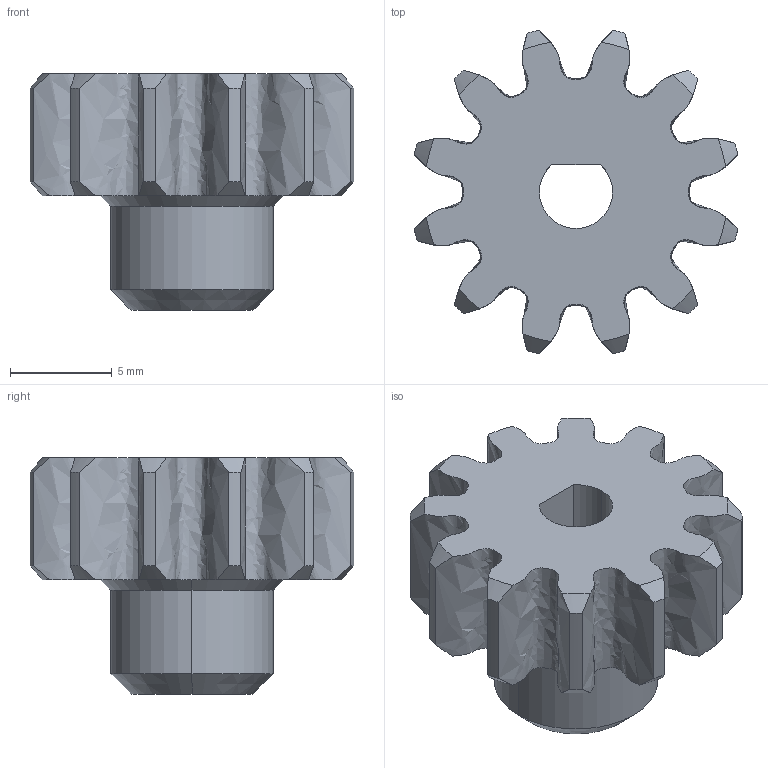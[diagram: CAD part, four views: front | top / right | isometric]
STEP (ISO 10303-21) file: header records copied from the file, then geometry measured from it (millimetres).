
FILE_DESCRIPTION (( 'STEP AP214' ), '1' );
FILE_NAME ('Ïèíü¸í 12.STEP', '2019-03-26T15:16:48', ( '' ), ( '' ), 'SwSTEP 2.0', 'SolidWorks 2018', '' );
FILE_SCHEMA (( 'AUTOMOTIVE_DESIGN' ));
Length unit declared in the file: millimetre
Products named in the file (1): 矧薤貲 12
Bounding box: 15.92 x 15.92 x 11.62 mm (x, y, z)
Volume: 1057.5 mm3; surface area: 1014.1 mm2
Topology: 1 solids, 1 shells, 65 faces, 178 edges, 116 vertices
Faces by surface type: cone 31, cylinder 17, bspline 12, plane 5
Entity records: 7657 total; most frequent: CARTESIAN_POINT 6090, ORIENTED_EDGE 356, DIRECTION 277, EDGE_CURVE 178, AXIS2_PLACEMENT_3D 119, VERTEX_POINT 116, B_SPLINE_CURVE_WITH_KNOTS 74, EDGE_LOOP 68
